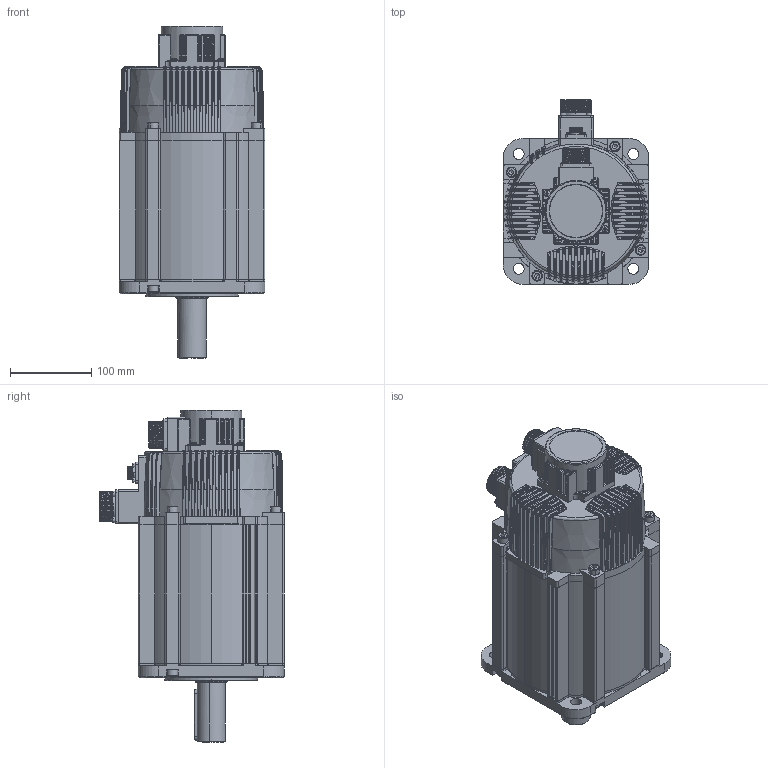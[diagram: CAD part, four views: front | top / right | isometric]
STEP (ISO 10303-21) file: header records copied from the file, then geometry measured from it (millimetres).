
FILE_DESCRIPTION (( 'STEP AP203' ), '1' );
FILE_NAME ('WB180ST-Z1M48015.STEP', '2022-09-06T10:28:55', ( '' ), ( '' ), 'SwSTEP 2.0', 'SolidWorks 2018', '' );
FILE_SCHEMA (( 'CONFIG_CONTROL_DESIGN' ));
Length unit declared in the file: millimetre
Products named in the file (1): WB180ST-Z1M48015
Bounding box: 180 x 227.5 x 409.4 mm (x, y, z)
Volume: 2404557.8 mm3; surface area: 690558.1 mm2
Topology: 35 solids, 35 shells, 3087 faces, 7831 edges, 4796 vertices
Faces by surface type: cylinder 977, plane 923, bspline 611, torus 257, cone 242, sphere 77
Entity records: 134750 total; most frequent: CARTESIAN_POINT 68104, ORIENTED_EDGE 15320, DIRECTION 12020, EDGE_CURVE 7660, AXIS2_PLACEMENT_3D 4929, VERTEX_POINT 4781, EDGE_LOOP 3299, FACE_OUTER_BOUND 3087
